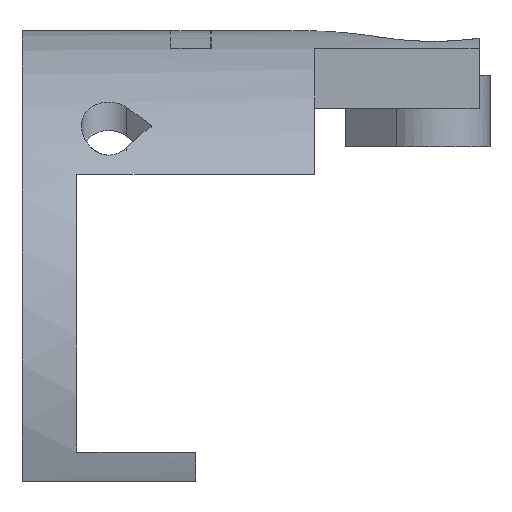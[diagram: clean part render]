
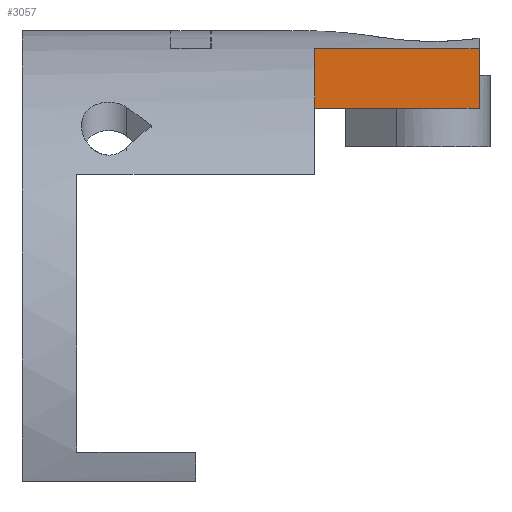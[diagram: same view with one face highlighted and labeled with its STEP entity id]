
A CAD part, front view. The second image highlights one B-rep face of the part: STEP entity #3057.
In plain terms, the highlighted planar face has unit normal (0, -1, 0).
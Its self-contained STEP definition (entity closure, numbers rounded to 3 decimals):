
#230 = CYLINDRICAL_SURFACE('',#231,18.85);
#231 = AXIS2_PLACEMENT_3D('',#232,#233,#234);
#232 = CARTESIAN_POINT('',(90.3,0.,0.));
#233 = DIRECTION('',(1.,0.,0.));
#234 = DIRECTION('',(-0.,0.,1.));
#457 = PLANE('',#458);
#458 = AXIS2_PLACEMENT_3D('',#459,#460,#461);
#459 = CARTESIAN_POINT('',(105.,0.,0.));
#460 = DIRECTION('',(1.,0.,0.));
#461 = DIRECTION('',(-0.,0.,1.));
#868 = CYLINDRICAL_SURFACE('',#869,17.65);
#869 = AXIS2_PLACEMENT_3D('',#870,#871,#872);
#870 = CARTESIAN_POINT('',(90.3,0.,0.));
#871 = DIRECTION('',(1.,0.,0.));
#872 = DIRECTION('',(-0.,0.,1.));
#1625 = VERTEX_POINT('',#1626);
#1626 = CARTESIAN_POINT('',(96.,-6.,16.599));
#1640 = PLANE('',#1641);
#1641 = AXIS2_PLACEMENT_3D('',#1642,#1643,#1644);
#1642 = CARTESIAN_POINT('',(96.,0.,0.));
#1643 = DIRECTION('',(1.,0.,0.));
#1644 = DIRECTION('',(-0.,0.,1.));
#1652 = EDGE_CURVE('',#1653,#1625,#1655,.T.);
#1653 = VERTEX_POINT('',#1654);
#1654 = CARTESIAN_POINT('',(88.145,-6.,16.599));
#1655 = SURFACE_CURVE('',#1656,(#1660,#1667),.PCURVE_S1.);
#1656 = LINE('',#1657,#1658);
#1657 = CARTESIAN_POINT('',(88.145,-6.,16.599));
#1658 = VECTOR('',#1659,1.);
#1659 = DIRECTION('',(1.,0.,0.));
#1660 = PCURVE('',#868,#1661);
#1661 = DEFINITIONAL_REPRESENTATION('',(#1662),#1666);
#1662 = LINE('',#1663,#1664);
#1663 = CARTESIAN_POINT('',(6.63,-2.155));
#1664 = VECTOR('',#1665,1.);
#1665 = DIRECTION('',(0.,1.));
#1666 = ( GEOMETRIC_REPRESENTATION_CONTEXT(2) 
PARAMETRIC_REPRESENTATION_CONTEXT() REPRESENTATION_CONTEXT('2D SPACE',''
  ) );
#1667 = PCURVE('',#1668,#1673);
#1668 = PLANE('',#1669);
#1669 = AXIS2_PLACEMENT_3D('',#1670,#1671,#1672);
#1670 = CARTESIAN_POINT('',(96.,-6.,0.));
#1671 = DIRECTION('',(-0.,1.,0.));
#1672 = DIRECTION('',(0.,0.,1.));
#1673 = DEFINITIONAL_REPRESENTATION('',(#1674),#1678);
#1674 = LINE('',#1675,#1676);
#1675 = CARTESIAN_POINT('',(16.599,-7.855));
#1676 = VECTOR('',#1677,1.);
#1677 = DIRECTION('',(0.,1.));
#1678 = ( GEOMETRIC_REPRESENTATION_CONTEXT(2) 
PARAMETRIC_REPRESENTATION_CONTEXT() REPRESENTATION_CONTEXT('2D SPACE',''
  ) );
#1697 = CONICAL_SURFACE('',#1698,17.65,0.696);
#1698 = AXIS2_PLACEMENT_3D('',#1699,#1700,#1701);
#1699 = CARTESIAN_POINT('',(88.145,0.,0.));
#1700 = DIRECTION('',(-1.,-0.,-0.));
#1701 = DIRECTION('',(-0.,0.,1.));
#1780 = EDGE_CURVE('',#1781,#1653,#1783,.T.);
#1781 = VERTEX_POINT('',#1782);
#1782 = CARTESIAN_POINT('',(90.3,-6.,14.671));
#1783 = SURFACE_CURVE('',#1784,(#1789,#1799),.PCURVE_S1.);
#1784 = HYPERBOLA('',#1785,7.183,6.);
#1785 = AXIS2_PLACEMENT_3D('',#1786,#1787,#1788);
#1786 = CARTESIAN_POINT('',(109.275,-6.,0.));
#1787 = DIRECTION('',(0.,1.,0.));
#1788 = DIRECTION('',(-1.,0.,-0.));
#1789 = PCURVE('',#1697,#1790);
#1790 = DEFINITIONAL_REPRESENTATION('',(#1791),#1798);
#1791 = B_SPLINE_CURVE_WITH_KNOTS('',5,(#1792,#1793,#1794,#1795,#1796,
    #1797),.UNSPECIFIED.,.F.,.F.,(6,6),(1.627,1.742),
  .PIECEWISE_BEZIER_KNOTS.);
#1792 = CARTESIAN_POINT('',(-6.671,-2.155));
#1793 = CARTESIAN_POINT('',(-6.663,-1.75));
#1794 = CARTESIAN_POINT('',(-6.654,-1.333));
#1795 = CARTESIAN_POINT('',(-6.646,-0.902));
#1796 = CARTESIAN_POINT('',(-6.638,-0.458));
#1797 = CARTESIAN_POINT('',(-6.63,0.));
#1798 = ( GEOMETRIC_REPRESENTATION_CONTEXT(2) 
PARAMETRIC_REPRESENTATION_CONTEXT() REPRESENTATION_CONTEXT('2D SPACE',''
  ) );
#1799 = PCURVE('',#1668,#1800);
#1800 = DEFINITIONAL_REPRESENTATION('',(#1801),#1805);
#1801 = HYPERBOLA('',#1802,7.183,6.);
#1802 = AXIS2_PLACEMENT_2D('',#1803,#1804);
#1803 = CARTESIAN_POINT('',(0.,13.275));
#1804 = DIRECTION('',(0.,-1.));
#1805 = ( GEOMETRIC_REPRESENTATION_CONTEXT(2) 
PARAMETRIC_REPRESENTATION_CONTEXT() REPRESENTATION_CONTEXT('2D SPACE',''
  ) );
#1824 = PLANE('',#1825);
#1825 = AXIS2_PLACEMENT_3D('',#1826,#1827,#1828);
#1826 = CARTESIAN_POINT('',(90.3,0.,0.));
#1827 = DIRECTION('',(1.,0.,0.));
#1828 = DIRECTION('',(-0.,0.,1.));
#1888 = EDGE_CURVE('',#1889,#1781,#1891,.T.);
#1889 = VERTEX_POINT('',#1890);
#1890 = CARTESIAN_POINT('',(90.3,-6.,14.616));
#1891 = SURFACE_CURVE('',#1892,(#1896,#1903),.PCURVE_S1.);
#1892 = LINE('',#1893,#1894);
#1893 = CARTESIAN_POINT('',(90.3,-6.,-15.));
#1894 = VECTOR('',#1895,1.);
#1895 = DIRECTION('',(0.,-0.,1.));
#1896 = PCURVE('',#1824,#1897);
#1897 = DEFINITIONAL_REPRESENTATION('',(#1898),#1902);
#1898 = LINE('',#1899,#1900);
#1899 = CARTESIAN_POINT('',(-15.,6.));
#1900 = VECTOR('',#1901,1.);
#1901 = DIRECTION('',(1.,0.));
#1902 = ( GEOMETRIC_REPRESENTATION_CONTEXT(2) 
PARAMETRIC_REPRESENTATION_CONTEXT() REPRESENTATION_CONTEXT('2D SPACE',''
  ) );
#1903 = PCURVE('',#1668,#1904);
#1904 = DEFINITIONAL_REPRESENTATION('',(#1905),#1909);
#1905 = LINE('',#1906,#1907);
#1906 = CARTESIAN_POINT('',(-15.,-5.7));
#1907 = VECTOR('',#1908,1.);
#1908 = DIRECTION('',(1.,0.));
#1909 = ( GEOMETRIC_REPRESENTATION_CONTEXT(2) 
PARAMETRIC_REPRESENTATION_CONTEXT() REPRESENTATION_CONTEXT('2D SPACE',''
  ) );
#1930 = CYLINDRICAL_SURFACE('',#1931,15.8);
#1931 = AXIS2_PLACEMENT_3D('',#1932,#1933,#1934);
#1932 = CARTESIAN_POINT('',(95.,0.,0.));
#1933 = DIRECTION('',(1.,0.,0.));
#1934 = DIRECTION('',(-0.,0.,1.));
#1946 = EDGE_CURVE('',#1947,#1889,#1949,.T.);
#1947 = VERTEX_POINT('',#1948);
#1948 = CARTESIAN_POINT('',(105.,-6.,14.616));
#1949 = SURFACE_CURVE('',#1950,(#1954,#1961),.PCURVE_S1.);
#1950 = LINE('',#1951,#1952);
#1951 = CARTESIAN_POINT('',(105.,-6.,14.616));
#1952 = VECTOR('',#1953,1.);
#1953 = DIRECTION('',(-1.,0.,0.));
#1954 = PCURVE('',#1930,#1955);
#1955 = DEFINITIONAL_REPRESENTATION('',(#1956),#1960);
#1956 = LINE('',#1957,#1958);
#1957 = CARTESIAN_POINT('',(6.673,10.));
#1958 = VECTOR('',#1959,1.);
#1959 = DIRECTION('',(-0.,-1.));
#1960 = ( GEOMETRIC_REPRESENTATION_CONTEXT(2) 
PARAMETRIC_REPRESENTATION_CONTEXT() REPRESENTATION_CONTEXT('2D SPACE',''
  ) );
#1961 = PCURVE('',#1668,#1962);
#1962 = DEFINITIONAL_REPRESENTATION('',(#1963),#1967);
#1963 = LINE('',#1964,#1965);
#1964 = CARTESIAN_POINT('',(14.616,9.));
#1965 = VECTOR('',#1966,1.);
#1966 = DIRECTION('',(0.,-1.));
#1967 = ( GEOMETRIC_REPRESENTATION_CONTEXT(2) 
PARAMETRIC_REPRESENTATION_CONTEXT() REPRESENTATION_CONTEXT('2D SPACE',''
  ) );
#3057 = ADVANCED_FACE('',(#3058),#1668,.F.);
#3058 = FACE_BOUND('',#3059,.F.);
#3059 = EDGE_LOOP('',(#3060,#3083,#3084,#3085,#3086,#3087,#3110));
#3060 = ORIENTED_EDGE('',*,*,#3061,.F.);
#3061 = EDGE_CURVE('',#1947,#3062,#3064,.T.);
#3062 = VERTEX_POINT('',#3063);
#3063 = CARTESIAN_POINT('',(105.,-6.,17.87));
#3064 = SURFACE_CURVE('',#3065,(#3069,#3076),.PCURVE_S1.);
#3065 = LINE('',#3066,#3067);
#3066 = CARTESIAN_POINT('',(105.,-6.,0.));
#3067 = VECTOR('',#3068,1.);
#3068 = DIRECTION('',(0.,0.,1.));
#3069 = PCURVE('',#1668,#3070);
#3070 = DEFINITIONAL_REPRESENTATION('',(#3071),#3075);
#3071 = LINE('',#3072,#3073);
#3072 = CARTESIAN_POINT('',(0.,9.));
#3073 = VECTOR('',#3074,1.);
#3074 = DIRECTION('',(1.,0.));
#3075 = ( GEOMETRIC_REPRESENTATION_CONTEXT(2) 
PARAMETRIC_REPRESENTATION_CONTEXT() REPRESENTATION_CONTEXT('2D SPACE',''
  ) );
#3076 = PCURVE('',#457,#3077);
#3077 = DEFINITIONAL_REPRESENTATION('',(#3078),#3082);
#3078 = LINE('',#3079,#3080);
#3079 = CARTESIAN_POINT('',(0.,6.));
#3080 = VECTOR('',#3081,1.);
#3081 = DIRECTION('',(1.,0.));
#3082 = ( GEOMETRIC_REPRESENTATION_CONTEXT(2) 
PARAMETRIC_REPRESENTATION_CONTEXT() REPRESENTATION_CONTEXT('2D SPACE',''
  ) );
#3083 = ORIENTED_EDGE('',*,*,#1946,.T.);
#3084 = ORIENTED_EDGE('',*,*,#1888,.T.);
#3085 = ORIENTED_EDGE('',*,*,#1780,.T.);
#3086 = ORIENTED_EDGE('',*,*,#1652,.T.);
#3087 = ORIENTED_EDGE('',*,*,#3088,.T.);
#3088 = EDGE_CURVE('',#1625,#3089,#3091,.T.);
#3089 = VERTEX_POINT('',#3090);
#3090 = CARTESIAN_POINT('',(96.,-6.,17.87));
#3091 = SURFACE_CURVE('',#3092,(#3096,#3103),.PCURVE_S1.);
#3092 = LINE('',#3093,#3094);
#3093 = CARTESIAN_POINT('',(96.,-6.,0.));
#3094 = VECTOR('',#3095,1.);
#3095 = DIRECTION('',(0.,0.,1.));
#3096 = PCURVE('',#1668,#3097);
#3097 = DEFINITIONAL_REPRESENTATION('',(#3098),#3102);
#3098 = LINE('',#3099,#3100);
#3099 = CARTESIAN_POINT('',(0.,0.));
#3100 = VECTOR('',#3101,1.);
#3101 = DIRECTION('',(1.,0.));
#3102 = ( GEOMETRIC_REPRESENTATION_CONTEXT(2) 
PARAMETRIC_REPRESENTATION_CONTEXT() REPRESENTATION_CONTEXT('2D SPACE',''
  ) );
#3103 = PCURVE('',#1640,#3104);
#3104 = DEFINITIONAL_REPRESENTATION('',(#3105),#3109);
#3105 = LINE('',#3106,#3107);
#3106 = CARTESIAN_POINT('',(0.,6.));
#3107 = VECTOR('',#3108,1.);
#3108 = DIRECTION('',(1.,0.));
#3109 = ( GEOMETRIC_REPRESENTATION_CONTEXT(2) 
PARAMETRIC_REPRESENTATION_CONTEXT() REPRESENTATION_CONTEXT('2D SPACE',''
  ) );
#3110 = ORIENTED_EDGE('',*,*,#3111,.T.);
#3111 = EDGE_CURVE('',#3089,#3062,#3112,.T.);
#3112 = SURFACE_CURVE('',#3113,(#3117,#3124),.PCURVE_S1.);
#3113 = LINE('',#3114,#3115);
#3114 = CARTESIAN_POINT('',(96.,-6.,17.87));
#3115 = VECTOR('',#3116,1.);
#3116 = DIRECTION('',(1.,0.,0.));
#3117 = PCURVE('',#1668,#3118);
#3118 = DEFINITIONAL_REPRESENTATION('',(#3119),#3123);
#3119 = LINE('',#3120,#3121);
#3120 = CARTESIAN_POINT('',(17.87,0.));
#3121 = VECTOR('',#3122,1.);
#3122 = DIRECTION('',(0.,1.));
#3123 = ( GEOMETRIC_REPRESENTATION_CONTEXT(2) 
PARAMETRIC_REPRESENTATION_CONTEXT() REPRESENTATION_CONTEXT('2D SPACE',''
  ) );
#3124 = PCURVE('',#230,#3125);
#3125 = DEFINITIONAL_REPRESENTATION('',(#3126),#3129);
#3126 = B_SPLINE_CURVE_WITH_KNOTS('',1,(#3127,#3128),.UNSPECIFIED.,.F.,
  .F.,(2,2),(0.,9.),.PIECEWISE_BEZIER_KNOTS.);
#3127 = CARTESIAN_POINT('',(0.324,5.7));
#3128 = CARTESIAN_POINT('',(0.324,14.7));
#3129 = ( GEOMETRIC_REPRESENTATION_CONTEXT(2) 
PARAMETRIC_REPRESENTATION_CONTEXT() REPRESENTATION_CONTEXT('2D SPACE',''
  ) );
